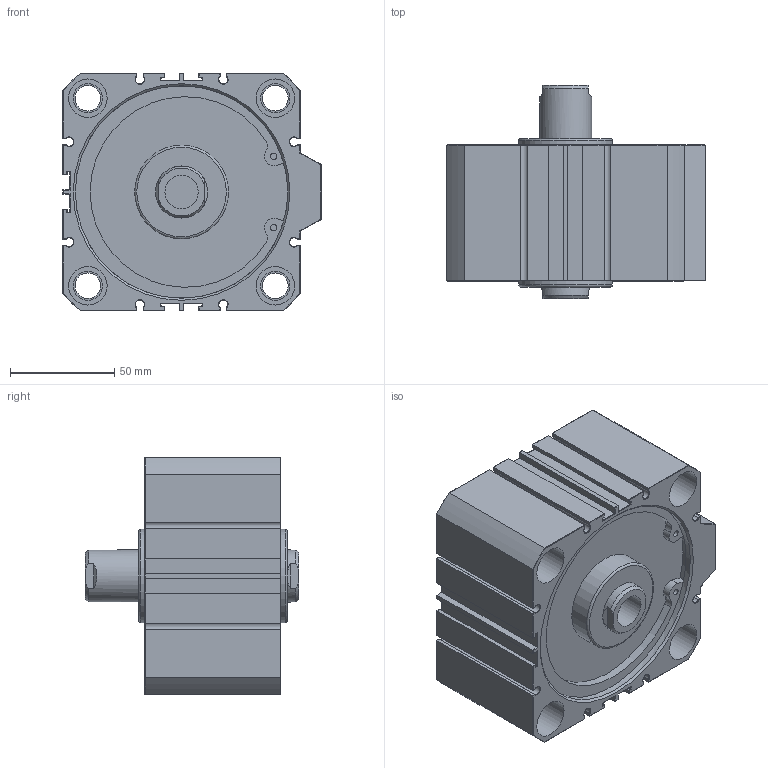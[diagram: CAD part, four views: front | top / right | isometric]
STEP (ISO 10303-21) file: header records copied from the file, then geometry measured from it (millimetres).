
FILE_DESCRIPTION(/* description */ (''),/* implementation_level */ '2;1');
FILE_NAME(/* name */ 'AJC-SW100X20N',/* time_stamp */ '2019-06-21T15:37:51+08:00',/* author */ ('JEFF HUANG'),/* organization */ ('TAIWAN AMAC CLAMP INDUSTRIAL CO., LTD.'),/* preprocessor_version */ 'ST-DEVELOPER v16.7',/* originating_system */ 'DEX',/* authorisation */ $);
FILE_SCHEMA (('AUTOMOTIVE_DESIGN {1 0 10303 214 3 1 1}'));
Length unit declared in the file: millimetre
Products named in the file (1): AJC-SW100X20N
Bounding box: 124 x 102.3 x 114 mm (x, y, z)
Volume: 709121.8 mm3; surface area: 89212.2 mm2
Topology: 1 solids, 1 shells, 393 faces, 881 edges, 488 vertices
Faces by surface type: plane 252, cylinder 75, cone 64, torus 2
Full cylindrical faces by diameter (mm): 3 x4, 12.3 x4, 14 x8, 15.806 x2, 16 x2, 18.5 x8, 25 x1, 45 x2, 102 x2
Entity records: 12899 total; most frequent: DIRECTION 1762, CARTESIAN_POINT 1754, ORIENTED_EDGE 1610, EDGE_CURVE 805, LINE 588, VECTOR 588, AXIS2_PLACEMENT_3D 587, VERTEX_POINT 483
